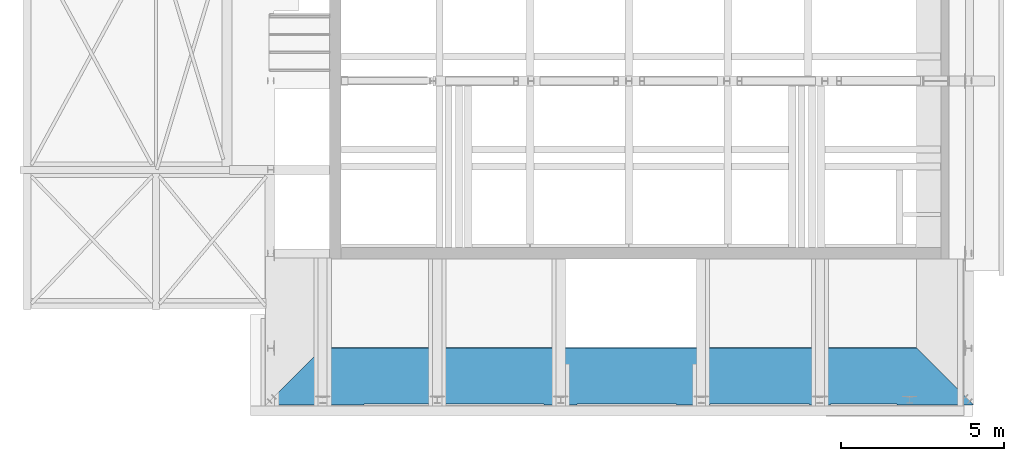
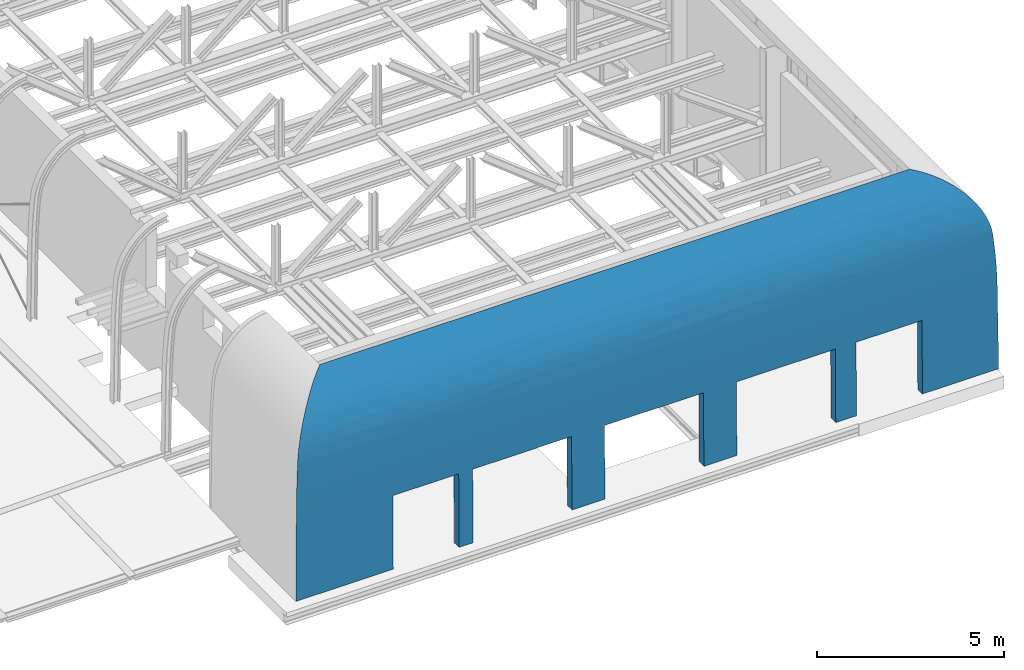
# One storey, part 27 of 29: 1 beam.
"""IFC2X3 building model written with IfcOpenShell, lengths in millimetres."""

import ifcopenshell
import ifcopenshell.guid

model = None  # the IFC model being written
_history = None  # IfcOwnerHistory: only IFC2X3 demands one
_inside = {}  # id of a spatial element -> (the spatial element, [elements in it])
_under = {}  # id of a project, library or spatial element -> (it, [spatial elements below it])
_declared = {}  # id of a project -> (the project, [libraries it declares])
_typed = {}  # id of a type object -> (the type object, [elements of that type])
_made_of = {}  # id of a material, layer set ... -> (it, [elements and type objects made of it])


def new_model(schema):
    """Start an empty IFC model of exactly this schema.

    Asked for "IFC4X3", IfcOpenShell would pick the latest addendum, in which some entities
    have other attributes; the version numbers below select the first issue.
    IFC2X3 requires an IfcOwnerHistory on every rooted entity: one is made here for all.
    """
    global model, _history
    if schema == "IFC4X3":
        model = ifcopenshell.file(schema_version=(4, 3, 0, 0))
    else:
        model = ifcopenshell.file(schema=schema)
    _inside.clear()
    _under.clear()
    _declared.clear()
    _typed.clear()
    _made_of.clear()
    _history = None
    if model.schema == "IFC2X3":
        org = make("IfcOrganization", Name="unknown")
        user = make(
            "IfcPersonAndOrganization",
            ThePerson=make("IfcPerson", FamilyName="unknown"),
            TheOrganization=org,
        )
        app = make(
            "IfcApplication",
            ApplicationDeveloper=org,
            Version="unknown",
            ApplicationFullName="unknown",
            ApplicationIdentifier="unknown",
        )
        _history = make(
            "IfcOwnerHistory",
            OwningUser=user,
            OwningApplication=app,
            ChangeAction="ADDED",
            CreationDate=0,
        )
    return model


def make(cls, **values):
    """One entity of the class cls with the attributes given. An attribute that is None is left unset."""
    return model.create_entity(
        cls, **{name: value for name, value in values.items() if value is not None}
    )


def entity(cls, *values):
    """Any entity or typed value of the class cls, its attributes in the order of the schema. None: left unset."""
    e = model.create_entity(cls)
    for i, value in enumerate(values):
        if value is not None:
            e[i] = value
    return e


def rooted(cls, **values):
    """An entity with a GlobalId (a new one), such as an element, a storey or a relation."""
    return make(cls, GlobalId=ifcopenshell.guid.new(), OwnerHistory=_history, **values)


def si_unit(unit_type, name, prefix=None):
    """IfcSIUnit, for example si_unit("LENGTHUNIT", "METRE", prefix="MILLI")."""
    return make("IfcSIUnit", UnitType=unit_type, Prefix=prefix, Name=name)


def converted_unit(unit_type, name, factor, base, dimensions=None, offset=None):
    """IfcConversionBasedUnit, such as the inch: factor (a typed value) times the base unit."""
    return make(
        "IfcConversionBasedUnit"
        if offset is None
        else "IfcConversionBasedUnitWithOffset",
        ConversionOffset=offset,
        Dimensions=None
        if dimensions is None
        else entity("IfcDimensionalExponents", *dimensions),
        UnitType=unit_type,
        Name=name,
        ConversionFactor=make(
            "IfcMeasureWithUnit", ValueComponent=factor, UnitComponent=base
        ),
    )


def derived_unit(unit_type, elements):
    """IfcDerivedUnit: a product of units, each with its exponent."""
    return make(
        "IfcDerivedUnit",
        Elements=[
            make("IfcDerivedUnitElement", Unit=unit, Exponent=power)
            for unit, power in elements
        ],
        UnitType=unit_type,
    )


def assignment(units):
    """IfcUnitAssignment: the units of a project."""
    return None if units is None else make("IfcUnitAssignment", Units=units)


def point(xyz):
    """IfcCartesianPoint."""
    return None if xyz is None else make("IfcCartesianPoint", Coordinates=xyz)


def direction(xyz):
    """IfcDirection."""
    return None if xyz is None else make("IfcDirection", DirectionRatios=xyz)


def frame(location, z_axis=None, x_axis=None):
    """IfcAxis2Placement3D, a coordinate frame: its origin and axes. An axis left out is left unset."""
    return make(
        "IfcAxis2Placement3D",
        Location=point(location),
        Axis=direction(z_axis),
        RefDirection=direction(x_axis),
    )


def origin():
    """The frame at (0, 0, 0) with its axes left unset."""
    return frame((0.0, 0.0, 0.0))


def place(relative_to, where):
    """IfcLocalPlacement: puts the frame where relative to a parent placement (None: the world)."""
    return make(
        "IfcLocalPlacement", PlacementRelTo=relative_to, RelativePlacement=where
    )


def context(
    kind, dimensions, precision=None, world=None, true_north=None, identifier=None
):
    """IfcGeometricRepresentationContext, for example the 3D "Model" context."""
    return make(
        "IfcGeometricRepresentationContext",
        ContextIdentifier=identifier,
        ContextType=kind,
        CoordinateSpaceDimension=dimensions,
        Precision=precision,
        WorldCoordinateSystem=world,
        TrueNorth=true_north,
    )


def subcontext(parent, identifier, kind, view, scale=None):
    """IfcGeometricRepresentationSubContext, for example "Body" below "Model"."""
    return make(
        "IfcGeometricRepresentationSubContext",
        ContextIdentifier=identifier,
        ContextType=kind,
        ParentContext=parent,
        TargetScale=scale,
        TargetView=view,
    )


def project(units=None, contexts=None):
    """IfcProject with its units and contexts."""
    return rooted(
        "IfcProject",
        Name="project",
        RepresentationContexts=contexts,
        UnitsInContext=assignment(units),
    )


def spatial(cls, under=None, at=None, **own):
    """A site, building, storey or space (cls), placed at a placement, below another one or the project."""
    s = rooted(cls, ObjectPlacement=at, **own)
    if under is not None:
        _under.setdefault(under.id(), (under, []))[1].append(s)
    return s


def faces_of(points, faces, orient=None, outer=None):
    """IfcFace entities. A face is a list of loops; a loop is a list of indices into points, from 0.

    orient and outer hold one flag for each loop. By default every Orientation is true, the
    first loop of a face is its IfcFaceOuterBound and the others are IfcFaceBound.
    """
    made = []
    for i, loops in enumerate(faces):
        bounds = []
        for j, loop in enumerate(loops):
            is_outer = j == 0 if outer is None else outer[i][j]
            bounds.append(
                make(
                    "IfcFaceOuterBound" if is_outer else "IfcFaceBound",
                    Bound=make("IfcPolyLoop", Polygon=[points[k] for k in loop]),
                    Orientation=True if orient is None else orient[i][j],
                )
            )
        made.append(make("IfcFace", Bounds=bounds))
    return made


def faceted_brep(points, faces, orient=None, outer=None, voids=None):
    """IfcFacetedBrep: a solid bounded by flat faces; with voids (closed shells), ...WithVoids."""
    shared = [point(p) for p in points]
    hull = make("IfcClosedShell", CfsFaces=faces_of(shared, faces, orient, outer))
    if voids is None:
        return make("IfcFacetedBrep", Outer=hull)
    return make(
        "IfcFacetedBrepWithVoids",
        Outer=hull,
        Voids=[
            make(cls, CfsFaces=faces_of(shared, fs, o, b)) for cls, fs, o, b in voids
        ],
    )


def shape(context_of_items, identifier, shape_type, items):
    """IfcShapeRepresentation: the items that make up one representation, for example the "Body"."""
    return make(
        "IfcShapeRepresentation",
        ContextOfItems=context_of_items,
        RepresentationIdentifier=identifier,
        RepresentationType=shape_type,
        Items=items,
    )


def material(Name=None, Category=None):
    """IfcMaterial."""
    return make("IfcMaterial", Name=Name, Category=Category)


def made_of(thing, what):
    """Note that an element or type object is made of a material, layer set ...; save() writes the relation."""
    if what is not None:
        _made_of.setdefault(what.id(), (what, []))[1].append(thing)
    return thing


def type_object(cls, material=None, **own):
    """A type object (cls), such as IfcWallType, which elements share."""
    return made_of(rooted(cls, **own), material)


def element(
    cls,
    number,
    at=None,
    inside=None,
    cuts=None,
    type_object=None,
    material=None,
    context=None,
    identifier="Body",
    shape_type=None,
    held_by="IfcProductDefinitionShape",
    body=None,
    shapes=None,
    **own,
):
    """One element of the class cls, such as IfcWall. Its Tag is "e" and its number.

    at: its placement. inside: the storey or other place that contains it. cuts: it is an
    opening in that element (IfcRelVoidsElement). A single representation is given by context,
    identifier, shape_type and body (its items); several are given by shapes. held_by: the class
    of the entity that holds the representations. save() writes the other relations.
    """
    e = rooted(cls, Tag="e%d" % number, ObjectPlacement=at, **own)
    if body is not None:
        shapes = [shape(context, identifier, shape_type, body)]
    if shapes is not None:
        e.Representation = make(held_by, Representations=shapes)
    if inside is not None:
        _inside.setdefault(inside.id(), (inside, []))[1].append(e)
    if cuts is not None:
        rooted(
            "IfcRelVoidsElement", RelatingBuildingElement=cuts, RelatedOpeningElement=e
        )
    if type_object is not None:
        _typed.setdefault(type_object.id(), (type_object, []))[1].append(e)
    return made_of(e, material)


def aggregate(whole, parts):
    """IfcRelAggregates: a whole, such as a stair, and the parts it consists of."""
    return rooted("IfcRelAggregates", RelatingObject=whole, RelatedObjects=parts)


def save(model, path):
    """Write the relations noted so far, then the file.

    IfcRelAggregates (storeys below a building ...), IfcRelContainedInSpatialStructure (elements
    in a storey), IfcRelDefinesByType, IfcRelAssociatesMaterial and IfcRelDeclares: one each for
    every whole, place, type object, material and project.
    """
    for whole, parts in _under.values():
        aggregate(whole, parts)
    for where, things in _inside.values():
        rooted(
            "IfcRelContainedInSpatialStructure",
            RelatedElements=things,
            RelatingStructure=where,
        )
    for kind, things in _typed.values():
        rooted("IfcRelDefinesByType", RelatedObjects=things, RelatingType=kind)
    for what, things in _made_of.values():
        rooted("IfcRelAssociatesMaterial", RelatedObjects=things, RelatingMaterial=what)
    for by, libraries in _declared.values():
        rooted("IfcRelDeclares", RelatingContext=by, RelatedDefinitions=libraries)
    model.write(path)


model = new_model("IFC2X3")

# Units and contexts
model_context = context("Model", 3, precision=0.01, world=origin(), true_north=direction((6.12303176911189e-17, 1.0)))
body_context = subcontext(model_context, "Body", "Model", "MODEL_VIEW")
ifc_project = project(units=[si_unit("LENGTHUNIT", "METRE", prefix="MILLI"), si_unit("AREAUNIT", "SQUARE_METRE", prefix="MILLI"), si_unit("VOLUMEUNIT", "CUBIC_METRE"), converted_unit("PLANEANGLEUNIT", "DEGREE", entity("IfcRatioMeasure", 0.0174532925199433), si_unit("PLANEANGLEUNIT", "RADIAN"), dimensions=[0, 0, 0, 0, 0, 0, 0]), si_unit("MASSUNIT", "GRAM", prefix="KILO"), derived_unit("MASSDENSITYUNIT", [(si_unit("MASSUNIT", "GRAM", prefix="KILO"), 1), (si_unit("LENGTHUNIT", "METRE"), -3)]), derived_unit("MOMENTOFINERTIAUNIT", [(si_unit("LENGTHUNIT", "METRE"), 4)]), si_unit("TIMEUNIT", "SECOND"), si_unit("FREQUENCYUNIT", "HERTZ"), si_unit("THERMODYNAMICTEMPERATUREUNIT", "DEGREE_CELSIUS"), derived_unit("THERMALTRANSMITTANCEUNIT", [(si_unit("MASSUNIT", "GRAM", prefix="KILO"), 1), (si_unit("THERMODYNAMICTEMPERATUREUNIT", "KELVIN"), -1), (si_unit("TIMEUNIT", "SECOND"), -3)]), derived_unit("VOLUMETRICFLOWRATEUNIT", [(si_unit("LENGTHUNIT", "METRE"), 3), (si_unit("TIMEUNIT", "SECOND"), -1)]), si_unit("ELECTRICCURRENTUNIT", "AMPERE"), si_unit("ELECTRICVOLTAGEUNIT", "VOLT"), si_unit("POWERUNIT", "WATT"), si_unit("FORCEUNIT", "NEWTON", prefix="KILO"), si_unit("ILLUMINANCEUNIT", "LUX"), si_unit("LUMINOUSFLUXUNIT", "LUMEN"), si_unit("LUMINOUSINTENSITYUNIT", "CANDELA"), derived_unit("USERDEFINED", [(si_unit("MASSUNIT", "GRAM", prefix="KILO"), -1), (si_unit("LENGTHUNIT", "METRE"), -2), (si_unit("TIMEUNIT", "SECOND"), 3), (si_unit("LUMINOUSFLUXUNIT", "LUMEN"), 1)]), derived_unit("LINEARVELOCITYUNIT", [(si_unit("LENGTHUNIT", "METRE"), 1), (si_unit("TIMEUNIT", "SECOND"), -1)]), si_unit("PRESSUREUNIT", "PASCAL"), derived_unit("USERDEFINED", [(si_unit("LENGTHUNIT", "METRE"), -2), (si_unit("MASSUNIT", "GRAM", prefix="KILO"), 1), (si_unit("TIMEUNIT", "SECOND"), -2)]), derived_unit("LINEARFORCEUNIT", [(si_unit("MASSUNIT", "GRAM", prefix="KILO"), 1), (si_unit("LENGTHUNIT", "METRE"), 1), (si_unit("TIMEUNIT", "SECOND"), -2), (si_unit("LENGTHUNIT", "METRE"), -1)]), derived_unit("PLANARFORCEUNIT", [(si_unit("MASSUNIT", "GRAM", prefix="KILO"), 1), (si_unit("LENGTHUNIT", "METRE"), 1), (si_unit("TIMEUNIT", "SECOND"), -2), (si_unit("LENGTHUNIT", "METRE"), -2)])], contexts=[model_context])

# Site, building, storey
site_placement = place(None, origin())
site = spatial("IfcSite", under=ifc_project, at=site_placement, Name="Theater aan de Parade", CompositionType="ELEMENT")
building_placement = place(site_placement, origin())
building = spatial("IfcBuilding", under=site, at=building_placement, Name="Theater aan de Parade", CompositionType="ELEMENT")
storey_placement = place(building_placement, frame((0.0, 0.0, 20300.0)))
storey = spatial("IfcBuildingStorey", under=building, at=storey_placement, Name="05 vijfde verdieping", CompositionType="ELEMENT", Elevation=20300.0)

# Beam
ifc_material = material(Name="00_PBT_MAT_beton prefab")
beam_type = type_object("IfcBeamType", Name="28_PBT_SF_toneeltoren_dakboog:28_PBT_SF_toneeltoren_dakboog as 1", PredefinedType="NOTDEFINED")
beam_placement = place(storey_placement, frame((65404.1057620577, 14998.7283771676, 20.0), z_axis=(0.0, 0.0, 1.0), x_axis=(-1.0, 0.0, 0.0)))
element("IfcBeam", 1, at=beam_placement, inside=storey, type_object=beam_type, material=ifc_material, Name="28_PBT_SF_toneeltoren_dakboog:28_PBT_SF_toneeltoren_dakboog as 1", ObjectType="28_PBT_SF_toneeltoren_dakboog:28_PBT_SF_toneeltoren_dakboog as 1", context=body_context, shape_type="Brep", body=[
    faceted_brep([(-16631.3274071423, 0.0, 0.0), (-16631.3274071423, -250.013567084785, 0.0), (-17270.9456363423, -250.013567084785, 0.0), (-17270.9456363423, 0.0, 0.0), (-12569.3274071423, -250.013567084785, 0.0), (-13584.7537613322, -250.013567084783, 0.0), (-13584.7537613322, 0.0, 0.0), (-12569.3274071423, 0.0, 0.0), (-8507.3274086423, -250.013567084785, 0.0), (-9522.75355558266, -250.013567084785, 0.0), (-9522.75355558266, 0.0, 0.0), (-8507.3274086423, 0.0, 0.0), (-5030.75320724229, -250.013567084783, 0.0), (-5460.75376140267, -250.013567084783, 0.0), (-5460.75376140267, 0.0, 0.0), (-5030.75320724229, 0.0, 0.0), (-250.01356708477, -250.013567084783, 0.0), (-2999.8267076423, -250.013567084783, 0.0), (-2999.8267076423, 0.0, 0.0), (0.0, 0.0, 0.0), (-19301.9452730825, 0.0, 0.0), (-19301.9452730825, -250.013567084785, 0.0), (-21401.1762269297, -250.013567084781, 0.0), (-21651.1897940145, 0.0, 0.0), (-21621.8204006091, -29.3693934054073, 2739.03729858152), (-16674.642446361, -29.3693934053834, 2739.03729858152), (-10825.5948970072, -29.3693934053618, 2739.03729858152), (-4976.54734765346, -29.3693934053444, 2739.03729858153), (-29.3693934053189, -29.3693934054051, 2739.03729858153), (-2999.8267076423, -25.5196073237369, 2380.0), (-5030.75320724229, -25.5196073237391, 2380.0), (-5460.75376140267, -25.5196073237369, 2380.0), (-8507.3274086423, -25.5196073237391, 2380.0), (-9522.75355558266, -25.5196073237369, 2380.0), (-12569.3274071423, -25.5196073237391, 2380.0), (-13584.7537613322, -25.5196073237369, 2380.0), (-16631.3274071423, -25.5196073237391, 2380.0), (-17270.9456363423, -25.5196073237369, 2380.0), (-19301.9452730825, -25.5196073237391, 2380.0), (-741.925899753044, -741.925899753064, 5619.2056823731), (-912.009392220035, -912.009392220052, 5762.35405109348), (-1100.83249981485, -1100.83249981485, 5879.68130246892), (-1304.50602294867, -1304.50602294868, 5968.77084086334), (-1518.83488723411, -1518.83488723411, 6027.78768431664), (-1739.40454965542, -1739.40454965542, 6055.51625976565), (-1752.70759417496, -1752.70759417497, 5805.87045265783), (-1649.18223027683, -1649.18223027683, 5796.18649980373), (-1546.76304821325, -1546.76304821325, 5778.25353968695), (-1446.10626557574, -1446.10626557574, 5752.18647191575), (-1347.85680795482, -1347.85680795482, 5718.15231274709), (-1252.64417678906, -1252.64417678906, 5676.36912498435), (-1161.07841603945, -1161.07841603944, 5627.10462081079), (-1073.74620353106, -1073.74620353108, 5570.67444651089), (-991.207092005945, -991.207092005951, 5507.44016006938), (-913.989923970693, -913.989923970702, 5437.80691460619), (-828.05717003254, -828.057170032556, 5352.89294778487), (-748.270105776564, -748.270105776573, 5262.17997000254), (-675.019050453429, -675.019050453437, 5166.11175020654), (-608.662349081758, -608.662349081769, 5065.15825525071), (-549.524619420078, -549.524619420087, 4959.81335081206), (-497.895163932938, -497.895163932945, 4850.59238539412), (-454.026554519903, -454.026554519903, 4738.02966923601), (-418.133396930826, -418.133396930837, 4622.67586046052), (-390.391280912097, -390.391280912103, 4505.09527124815), (-370.935921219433, -370.935921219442, 4385.8631072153), (-359.862493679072, -359.862493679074, 4265.56265350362), (-328.655331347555, -328.655331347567, 3883.82504014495), (-304.828933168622, -304.828933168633, 3501.55576962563), (-288.392192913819, -288.392192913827, 3118.89753307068), (-279.351246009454, -279.351246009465, 2735.99316679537), (-38.4848472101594, -38.4848472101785, 3125.83903701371), (-55.0534271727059, -55.0534271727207, 3512.39324861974), (-79.0689783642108, -79.0689783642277, 3898.55633547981), (-110.522579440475, -110.522579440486, 4284.18484497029), (-121.975431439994, -121.975431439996, 4409.76589754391), (-141.410039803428, -141.410039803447, 4534.36150172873), (-168.747355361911, -168.747355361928, 4657.46487196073), (-203.876185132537, -203.876185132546, 4778.57529225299), (-246.653644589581, -246.6536445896, 4897.2001528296), (-296.905738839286, -296.905738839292, 5012.85695378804), (-354.428070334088, -354.428070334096, 5125.07526764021), (-418.986670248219, -418.986670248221, 5233.39865274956), (-490.318950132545, -490.318950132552, 5337.38650988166), (-568.134769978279, -568.134769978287, 5436.61587431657), (-652.117618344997, -652.117618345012, 5530.68313623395), (-19301.9452730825, -275.533980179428, 2380.0), (-17270.9456363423, -275.533980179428, 2380.0), (-16631.3274071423, -275.533980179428, 2380.0), (-13584.7537613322, -275.533980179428, 2380.0), (-12569.3274071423, -275.533980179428, 2380.0), (-9522.75355558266, -275.533980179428, 2380.0), (-8507.3274086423, -275.533980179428, 2380.0), (-5460.75376140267, -275.533980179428, 2380.0), (-5030.75320724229, -275.533980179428, 2380.0), (-2999.8267076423, -275.533980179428, 2380.0), (-5195.62724627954, -279.351245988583, 2735.99316679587), (-11539.2865474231, -279.351245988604, 2735.99316679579), (-21371.838548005, -279.351246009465, 2735.99316679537), (-14014.0215589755, -304.642942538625, 3498.01625284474), (-21322.5344626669, -328.655331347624, 3883.82504014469), (-21346.3608608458, -304.828933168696, 3501.55576962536), (-21362.7976011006, -288.392192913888, 3118.8975330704), (-8050.8666944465, -304.675564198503, 3498.63793749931), (-16375.0512999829, -359.862493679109, 4265.5626535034), (-18389.0038792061, -359.862493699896, 4265.56265350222), (-21291.3273003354, -359.86249367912, 4265.56265350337), (-3262.17763208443, -359.862493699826, 4265.56265350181), (-5276.13849403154, -359.862493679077, 4265.56265350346), (-10825.5948970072, -359.862493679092, 4265.56265350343), (-13156.148030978, -359.862493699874, 4265.56265350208), (-15486.6887408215, -359.862493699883, 4265.56265350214), (-6164.5010532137, -359.862493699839, 4265.56265350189), (-8495.05004580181, -359.86249369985, 4265.56265350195), (-21153.2946300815, -497.895163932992, 4850.59238539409), (-18634.68018267, -512.821238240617, 4884.26361655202), (-21101.6651745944, -549.524619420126, 4959.81335081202), (-4421.85470238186, -748.378973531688, 5262.31282832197), (-2618.42563803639, -771.729585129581, 5290.20195894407), (-3816.31278298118, -913.989923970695, 5437.80691460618), (-2502.59025180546, -431.509517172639, 4669.07704488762), (-7746.39008141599, -432.453062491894, 4672.17572737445), (-6318.72028833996, -494.513123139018, 4842.68381755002), (-8157.69539474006, -529.219565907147, 4919.17848672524), (-17669.7424488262, -398.154385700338, 4541.94610577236), (-15920.175155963, -399.149418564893, 4546.39892031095), (-17170.4953896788, -464.771391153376, 4767.85208067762), (-21260.7985131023, -390.391280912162, 4505.09527124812), (-19148.5995492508, -431.509516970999, 4669.077044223), (-21233.0563970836, -418.133396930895, 4622.67586046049), (-12078.2655734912, -442.201511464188, 4703.04485839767), (-10197.1615990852, -571.666312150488, 5001.30785200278), (-11950.257246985, -595.306528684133, 5042.82566811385), (-4063.59529489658, -391.747513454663, 4511.83024851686), (-4480.69441825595, -464.771391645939, 4767.85208200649), (-21042.5274449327, -608.662349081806, 5065.15825525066), (-18258.8117889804, -624.786727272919, 5091.14394381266), (-19032.7641535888, -771.729584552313, 5290.2019582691), (-20976.170743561, -675.019050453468, 5166.11175020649), (-21197.1632394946, -454.026554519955, 4738.02966923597), (-3392.37801242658, -624.786727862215, 5091.14394474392), (-14767.9486948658, -720.527033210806, 5227.41634430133), (-17229.3350775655, -748.378972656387, 5262.31282725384), (-16012.1033990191, -593.044443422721, 5038.96624112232), (-3016.50962268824, -512.821238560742, 4884.263617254), (-21280.253872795, -370.935921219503, 4385.86310721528), (-13727.9148459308, -583.351796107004, 5022.16418837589), (-6718.63015561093, -913.9899239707, 5437.80691460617), (-7206.49179236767, -753.194388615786, 5268.16257509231), (-12736.1112070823, -721.848752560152, 5229.114805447), (-14932.5596384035, -913.989923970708, 5437.80691460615), (-17834.8824974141, -913.98992397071, 5437.80691460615), (-5904.9356792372, -410.185668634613, 4592.51488864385), (-20737.1998700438, -913.989923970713, 5437.80691460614), (-20823.1326239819, -828.057170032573, 5352.89294778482), (-20902.9196882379, -748.270105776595, 5262.17997000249), (-3430.91281244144, -913.9899239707, 5437.80691460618), (-18220.276981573, -913.989923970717, 5437.80691460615), (-6719.82211082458, -616.749775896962, 5078.32013123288), (-5033.96148213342, -571.992079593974, 5001.89856562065), (-14983.0764741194, -474.579393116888, 4793.67494874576), (-10636.6402126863, -734.412849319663, 5245.04555082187), (-10168.932310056, -401.466683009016, 4556.5614365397), (-9618.05660993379, -471.401795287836, 4785.44408230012), (-8642.99131345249, -670.396143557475, 5159.55544137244), (-9620.94752824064, -913.989923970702, 5437.80691460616), (-5947.84020993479, -913.989923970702, 5437.80691460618), (-15703.3540931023, -913.989923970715, 5437.80691460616), (-13858.1952716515, -402.59627395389, 4561.41535333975), (-12273.4514179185, -383.923179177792, 4470.84204013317), (-10669.5038071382, -913.989923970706, 5437.80691460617), (-12523.2703872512, -913.989923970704, 5437.80691460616), (-13186.4266956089, -913.98992397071, 5437.80691460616), (-8308.67426304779, -913.989923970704, 5437.80691460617), (-12845.1138875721, -1752.70759417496, 5805.87045265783), (-13854.8743044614, -1521.88798366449, 5772.60765953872), (-11761.5713695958, -1515.76009252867, 5771.13769579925), (-17074.384283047, -1557.11346764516, 5780.45204573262), (-16724.7768790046, -1334.98707040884, 5713.02936780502), (-15652.0287889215, -1528.10661621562, 5774.06730606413), (-3011.16973768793, -1752.70759417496, 5805.87045265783), (-18640.0200563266, -1752.70759417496, 5805.87045265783), (-19898.4821998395, -1752.70759417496, 5805.87045265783), (-20002.0075637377, -1649.18223027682, 5796.18649980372), (-5056.00129175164, -1098.37436580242, 5587.60304298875), (-3254.37620402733, -1175.24840059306, 5635.3561788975), (-4926.41290905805, -1334.9870726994, 5713.029368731), (-16595.1885147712, -1098.37436468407, 5587.6030422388), (-20104.4267458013, -1546.76304821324, 5778.25353968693), (-20205.0835284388, -1446.10626557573, 5752.18647191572), (-18334.4007850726, -1462.60825339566, 5757.05366469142), (-20398.5456172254, -1252.64417678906, 5676.36912498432), (-20490.1113779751, -1161.07841603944, 5627.10462081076), (-18396.8135894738, -1175.24839954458, 5635.35617829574), (-14792.2333598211, -1320.22075891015, 5706.95421885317), (-17381.5579128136, -1752.70759417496, 5805.87045265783), (-3316.78900726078, -1462.60825463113, 5757.05366504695), (-6773.17361885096, -1048.9453534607, 5552.76304002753), (-6804.9848601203, -1228.78299711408, 5664.43285112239), (-20577.4435904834, -1073.74620353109, 5570.67444651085), (-20659.9827020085, -991.207092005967, 5507.44016006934), (-8129.34635706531, -1125.403157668, 5605.24468827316), (-20303.3329860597, -1347.85680795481, 5718.15231274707), (-4269.63038589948, -1752.70759417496, 5805.87045265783), (-7296.59393809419, -1483.59879378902, 5762.90374417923), (-8773.76779562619, -1303.26608203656, 5699.71475884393), (-14444.8897604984, -1104.41131869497, 5591.62679443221), (-5572.93310804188, -1563.70349393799, 5781.80599346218), (-6786.55467292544, -1752.70759417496, 5805.87045265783), (-9815.83509854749, -1521.85935475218, 5772.60086506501), (-10808.8121940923, -1285.26669226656, 5691.71486270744), (-8806.07441114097, -1752.70759417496, 5805.87045265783), (-11928.7219957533, -1082.65808000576, 5576.89672163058), (-12845.1144983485, -1300.73551669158, 5698.60973807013), (-9678.86027276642, -1093.89079505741, 5584.58299220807), (-10825.5941493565, -1752.70759417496, 5805.87045265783), (-14864.6336257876, -1752.70759417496, 5805.87045265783), (-19911.7852443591, -1739.40454965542, 6055.51625976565), (-4487.86805156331, -1739.4045496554, 6055.51625976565), (-7236.35939729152, -1739.4045496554, 6055.51625976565), (-9030.97714714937, -1739.40454965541, 6055.51625976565), (-10825.5948970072, -1739.40454965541, 6055.51625976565), (-12620.2126468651, -1739.4045496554, 6055.51625976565), (-14414.830396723, -1739.40454965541, 6055.51625976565), (-17163.3217424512, -1739.40454965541, 6055.51625976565), (-18537.5534934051, -1739.40454965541, 6055.51625976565), (-3490.39203647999, -741.92589975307, 5619.20568237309), (-4864.6361701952, -893.223243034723, 5748.50276783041), (-3025.41120346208, -975.765008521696, 5806.23534234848), (-3480.84706994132, -1372.79049338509, 5991.19635060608), (-18824.0562332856, -938.117535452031, 5780.8930311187), (-18160.7872617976, -741.925899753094, 5619.20568237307), (-19356.6334399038, -741.925899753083, 5619.20568237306), (-20909.2638942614, -741.925899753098, 5619.20568237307), (-7813.78744030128, -1407.34150975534, 6001.2252498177), (-5950.36425255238, -1439.16465639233, 6009.69963991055), (-6686.18800392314, -1216.3560895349, 5934.47376694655), (-14859.2427797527, -1388.82492287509, 5995.95879115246), (-16282.2795339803, -1554.94715794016, 6034.54640561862), (-17850.4301110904, -1519.97403201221, 6028.01445554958), (-20132.3549067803, -1518.83488723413, 6027.78768431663), (-18420.9208736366, -1167.65815265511, 5912.79677450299), (-20550.3572941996, -1100.83249981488, 5879.6813024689), (-20346.6837710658, -1304.5060229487, 5968.77084086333), (-20739.1804017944, -912.00939222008, 5762.35405109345), (-4844.53634956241, -1141.3193125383, 5900.22190771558), (-2680.40169406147, -1178.3526858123, 5917.73006239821), (-11072.6564459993, -1019.26173991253, 5833.58086765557), (-13574.0684104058, -941.880369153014, 5783.4986466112), (-13170.9097695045, -1281.40252953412, 5960.37790815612), (-6238.8686689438, -741.925899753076, 5619.20568237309), (-7220.2635132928, -998.577906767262, 5820.82825646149), (-16702.6472237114, -1346.13875822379, 5982.86057411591), (-14669.1380770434, -1156.0957462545, 5907.35157440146), (-16087.1326747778, -1022.15203944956, 5835.32743864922), (-9576.05268421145, -1495.94440157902, 6023.04203977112), (-11722.9057294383, -1480.24580805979, 6019.57833191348), (-2294.55635411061, -741.925899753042, 5619.20568237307), (-15412.3106293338, -741.92589975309, 5619.20568237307), (-15867.436373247, -741.925899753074, 5619.20568237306), (-17804.0029855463, -741.925899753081, 5619.20568237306), (-3847.18680846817, -741.925899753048, 5619.20568237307), (-13406.2610154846, -1507.94408169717, 6025.57473802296), (-9158.53926822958, -976.943011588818, 5807.0027169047), (-9030.97324008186, -1217.68660858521, 5935.03806567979), (-13574.0662816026, -741.925899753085, 5619.20568237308), (-11735.8219338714, -741.925899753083, 5619.20568237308), (-13346.5086575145, -741.925899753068, 5619.20568237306), (-6952.44771718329, -741.925899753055, 5619.20568237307), (-8889.01432948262, -741.925899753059, 5619.20568237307), (-8987.34530140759, -741.925899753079, 5619.20568237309), (-11389.8624679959, -1242.43287810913, 5945.26845605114), (-10825.5809417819, -741.925899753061, 5619.20568237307), (-2370.34082571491, -182.033982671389, 4706.75053438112), (-19407.0179957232, -515.62624410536, 5371.10845911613), (-17940.426720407, -433.524829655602, 5255.77848574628), (-19257.3195104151, -316.351610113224, 5052.80519798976), (-18165.0027800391, -217.022011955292, 4817.6380640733), (-17393.4967200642, -309.04875646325, 5038.06863722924), (-2297.15300452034, -515.233297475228, 5370.59615081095), (-3854.70556243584, -576.316053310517, 5446.3263204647), (-4937.47364962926, -318.985567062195, 5058.04577860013), (-3822.95538642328, -432.835333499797, 5254.73188246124), (-2437.93206678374, -316.173922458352, 5052.45026693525), (-3215.78226408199, -110.522579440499, 4284.1848449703), (-16835.7149216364, -572.958557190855, 5442.35657552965), (-6367.28654286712, -497.714221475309, 5347.39651445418), (-15330.1380242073, -110.522579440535, 4284.1848449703), (-13930.8583474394, -169.209995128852, 4659.27003617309), (-12531.5711390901, -110.522579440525, 4284.1848449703), (-4006.72921998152, -143.225226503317, 4543.84740634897), (-19426.3661849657, -152.195506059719, 4587.4766527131), (-18435.3977088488, -110.522579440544, 4284.1848449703), (-21529.2143625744, -121.975431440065, 4409.76589754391), (-4460.54193864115, -214.885882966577, 4811.47008181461), (-21482.4424386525, -168.747355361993, 4657.46487196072), (-21509.779754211, -141.410039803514, 4534.36150172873), (-13641.7581102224, -299.113903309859, 5017.51014229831), (-12022.9176206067, -293.471656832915, 5005.55754180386), (-19826.335293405, -220.711155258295, 4828.13845875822), (-6713.31134021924, -357.557860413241, 5130.70761845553), (-21296.7617236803, -354.428070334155, 5125.07526764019), (-21232.2031237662, -418.986670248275, 5233.39865274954), (-21540.667214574, -110.522579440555, 4284.1848449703), (-21083.0550240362, -568.134769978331, 5436.61587431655), (-21160.8708438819, -490.318950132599, 5337.38650988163), (-12086.0535248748, -500.095432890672, 5350.5917829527), (-21447.3136088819, -203.876185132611, 4778.57529225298), (-21404.5361494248, -246.653644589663, 4897.20015282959), (-21354.2840551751, -296.905738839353, 5012.85695378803), (-20999.0721756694, -652.117618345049, 5530.68313623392), (-17222.9469654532, -143.302724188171, 4544.24688743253), (-16141.5572868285, -204.323219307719, 4779.94920955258), (-15263.1581879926, -300.534781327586, 5020.48786522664), (-7873.6812075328, -178.694688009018, 4694.82875623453), (-6441.08222827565, -246.175244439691, 4895.99421699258), (-5927.36931886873, -160.934207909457, 4625.83592178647), (-9857.30937596, -543.600686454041, 5406.71630376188), (-14606.9707735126, -563.999679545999, 5431.65937504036), (-13981.2916470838, -406.038551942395, 5212.89307467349), (-15985.6071621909, -425.438115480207, 5243.41161541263), (-10978.9446597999, -162.813435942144, 4633.6513704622), (-9426.3114544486, -110.522579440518, 4284.1848449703), (-11646.3113061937, -110.522579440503, 4284.18484497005), (-6321.0517698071, -110.522579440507, 4284.1848449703), (-10147.0151084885, -251.446419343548, 4909.15638218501), (-8128.38765248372, -254.882835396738, 4917.59284488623), (-8889.02385423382, -346.112916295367, 5109.89738390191), (-15503.4660657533, -146.906108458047, 4562.35863808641), (-10632.1975067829, -401.755428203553, 5205.98536377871), (-8010.68533139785, -579.242232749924, 5449.76890435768), (-5057.70053363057, -110.522579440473, 4284.18484496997), (-21572.1208156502, -79.0689783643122, 3898.55633547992), (-13957.6908820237, -54.3750986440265, 3499.39752763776), (-21596.1363668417, -55.053427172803, 3512.39324861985), (-21612.7049468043, -38.4848472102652, 3125.83903701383), (-7901.07112133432, -54.8969885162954, 3509.41043738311)], [[[0, 1, 2, 3]], [[4, 5, 6, 7]], [[8, 9, 10, 11]], [[12, 13, 14, 15]], [[16, 17, 18, 19]], [[20, 21, 22, 23]], [[23, 24, 25, 26, 27, 28, 19, 18, 29, 30, 15, 14, 31, 32, 11, 10, 33, 34, 7, 6, 35, 36, 0, 3, 37, 38, 20]], [[39, 40, 41, 42, 43, 44, 45, 46, 47, 48, 49, 50, 51, 52, 53, 54, 55, 56, 57, 58, 59, 60, 61, 62, 63, 64, 65, 66, 67, 68, 69, 16, 19, 28, 70, 71, 72, 73, 74, 75, 76, 77, 78, 79, 80, 81, 82, 83, 84]], [[85, 86, 2, 1, 87, 88, 5, 4, 89, 90, 9, 8, 91, 92, 13, 12, 93, 94, 17, 16, 69, 95, 96, 97, 22, 21]], [[98, 99, 100]], [[101, 98, 100]], [[96, 102, 98]], [[97, 96, 98]], [[68, 95, 69]], [[99, 103, 104, 105]], [[66, 65, 106, 107]], [[95, 68, 102]], [[68, 67, 102]], [[98, 108, 109, 110, 103]], [[66, 107, 102]], [[101, 97, 98]], [[102, 67, 66]], [[102, 108, 98]], [[96, 95, 102]], [[99, 98, 103]], [[102, 107, 111, 112, 108]], [[113, 114, 115]], [[116, 117, 118]], [[119, 106, 64]], [[120, 121, 122]], [[123, 110, 124]], [[125, 123, 124]], [[126, 127, 128]], [[129, 130, 131]], [[132, 119, 133]], [[117, 57, 56]], [[134, 115, 114]], [[135, 136, 137]], [[113, 138, 127]], [[125, 114, 127]], [[119, 63, 62]], [[139, 117, 116]], [[140, 141, 142]], [[127, 138, 128]], [[54, 117, 55]], [[119, 62, 61]], [[119, 143, 133]], [[57, 117, 139]], [[144, 127, 126]], [[145, 140, 142]], [[146, 147, 116]], [[148, 149, 140]], [[64, 63, 119]], [[106, 65, 64]], [[144, 105, 104]], [[136, 141, 150]], [[121, 120, 151]], [[106, 119, 132]], [[113, 127, 114]], [[55, 117, 56]], [[152, 153, 136]], [[136, 153, 154]], [[143, 59, 58]], [[137, 134, 135]], [[117, 54, 155, 118]], [[136, 150, 156, 152]], [[157, 121, 158]], [[60, 119, 61]], [[143, 58, 139]], [[58, 57, 139]], [[104, 127, 144]], [[143, 60, 59]], [[137, 136, 154]], [[141, 136, 135]], [[145, 142, 159]], [[111, 132, 151]], [[160, 148, 131]], [[129, 161, 162]], [[130, 163, 160]], [[164, 163, 147]], [[161, 112, 120]], [[130, 122, 163]], [[145, 159, 129]], [[116, 118, 165, 146]], [[158, 116, 157]], [[141, 135, 142]], [[141, 149, 166, 150]], [[114, 142, 135]], [[159, 142, 125]], [[125, 124, 159]], [[159, 124, 167]], [[167, 110, 109]], [[129, 168, 161]], [[125, 127, 123]], [[167, 129, 159]], [[110, 167, 124]], [[129, 167, 168]], [[168, 167, 109]], [[151, 132, 133]], [[132, 111, 107, 106]], [[121, 151, 133]], [[129, 162, 130]], [[133, 143, 158]], [[122, 121, 157]], [[163, 122, 157]], [[162, 122, 130]], [[147, 163, 157]], [[160, 163, 164]], [[160, 164, 169, 170]], [[148, 170, 171, 149]], [[133, 158, 121]], [[116, 158, 139]], [[140, 145, 148]], [[141, 140, 149]], [[131, 148, 145]], [[160, 170, 148]], [[129, 131, 145]], [[160, 131, 130]], [[127, 104, 123]], [[123, 104, 103, 110]], [[116, 147, 157]], [[147, 146, 172, 164]], [[109, 108, 168]], [[161, 168, 108]], [[112, 111, 120]], [[120, 122, 162]], [[161, 108, 112]], [[111, 151, 120]], [[120, 162, 161]], [[142, 114, 125]], [[114, 135, 134]], [[143, 119, 60]], [[158, 143, 139]], [[173, 174, 175]], [[176, 177, 178]], [[46, 45, 179]], [[180, 181, 182]], [[183, 184, 185]], [[186, 156, 150, 166]], [[187, 188, 189]], [[52, 184, 155]], [[190, 191, 192]], [[193, 174, 178]], [[180, 176, 194]], [[49, 195, 184]], [[184, 195, 185]], [[195, 48, 47]], [[192, 186, 177]], [[196, 183, 197]], [[52, 155, 53]], [[195, 46, 179]], [[51, 50, 184]], [[189, 180, 182]], [[198, 199, 156]], [[192, 177, 189]], [[199, 152, 156]], [[155, 54, 53]], [[198, 156, 192]], [[184, 183, 155]], [[51, 184, 52]], [[200, 196, 197]], [[192, 201, 190]], [[198, 192, 191]], [[179, 202, 195]], [[203, 204, 197]], [[166, 205, 186]], [[184, 50, 49]], [[49, 48, 195]], [[188, 201, 189]], [[203, 206, 207]], [[189, 201, 192]], [[195, 47, 46]], [[206, 195, 202]], [[189, 182, 187]], [[180, 189, 176]], [[205, 193, 186]], [[208, 209, 204]], [[210, 208, 203]], [[203, 208, 204]], [[156, 186, 192]], [[205, 166, 149, 171]], [[211, 209, 212]], [[211, 205, 171]], [[212, 174, 193]], [[209, 213, 204]], [[183, 165, 118, 155]], [[197, 183, 185]], [[185, 206, 203]], [[204, 213, 200]], [[185, 203, 197]], [[214, 208, 210]], [[203, 207, 210]], [[214, 175, 208]], [[208, 175, 209]], [[212, 205, 211]], [[209, 211, 213]], [[174, 212, 175]], [[209, 175, 212]], [[175, 214, 173]], [[211, 171, 170, 169]], [[213, 211, 169]], [[215, 178, 174]], [[173, 215, 174]], [[213, 169, 164, 172]], [[204, 200, 197]], [[194, 178, 215]], [[177, 186, 193]], [[177, 193, 178]], [[212, 193, 205]], [[195, 206, 185]], [[202, 207, 206]], [[213, 172, 200]], [[196, 172, 146, 165]], [[172, 196, 200]], [[183, 196, 165]], [[177, 176, 189]], [[178, 194, 176]], [[216, 181, 180, 194, 215, 173, 214, 210, 207, 202, 179, 45, 44, 217, 218, 219, 220, 221, 222, 223, 224]], [[225, 226, 227]], [[228, 217, 44]], [[229, 230, 231, 232]], [[233, 234, 235]], [[222, 236, 237]], [[238, 239, 224]], [[240, 241, 242]], [[243, 229, 232]], [[227, 244, 245]], [[234, 228, 244]], [[43, 228, 44]], [[228, 43, 42]], [[246, 247, 248]], [[249, 250, 226]], [[238, 251, 240]], [[238, 223, 237]], [[224, 239, 216]], [[248, 252, 236]], [[42, 245, 228]], [[253, 240, 251]], [[254, 255, 220]], [[227, 41, 40]], [[40, 225, 227]], [[40, 39, 256, 225]], [[218, 217, 234]], [[243, 241, 229]], [[237, 251, 238]], [[253, 257, 258, 259, 230]], [[245, 42, 41]], [[226, 225, 260, 249]], [[255, 248, 261]], [[250, 262, 263]], [[229, 240, 253]], [[264, 257, 247, 265, 266]], [[257, 253, 247]], [[220, 255, 221]], [[228, 234, 217]], [[230, 229, 253]], [[238, 240, 242]], [[223, 238, 224]], [[242, 239, 238]], [[265, 247, 246]], [[248, 247, 252]], [[250, 249, 267, 268, 269]], [[248, 255, 270]], [[262, 269, 271, 265]], [[251, 237, 236]], [[237, 223, 222]], [[253, 251, 252]], [[261, 248, 236]], [[246, 248, 270]], [[222, 261, 236]], [[254, 270, 255]], [[263, 254, 233]], [[254, 219, 233]], [[236, 252, 251]], [[253, 252, 247]], [[226, 244, 227]], [[244, 235, 234]], [[226, 250, 244]], [[262, 246, 263]], [[261, 221, 255]], [[221, 261, 222]], [[270, 263, 246]], [[263, 270, 254]], [[250, 263, 235]], [[234, 233, 218]], [[233, 235, 263]], [[250, 235, 244]], [[218, 233, 219]], [[254, 220, 219]], [[240, 229, 241]], [[228, 245, 244]], [[227, 245, 41]], [[246, 262, 265]], [[262, 250, 269]], [[77, 272, 78]], [[273, 274, 275]], [[276, 275, 277]], [[277, 275, 274]], [[278, 279, 256]], [[280, 281, 282]], [[74, 283, 272]], [[284, 259, 258]], [[272, 282, 78]], [[279, 281, 285]], [[286, 287, 288]], [[289, 272, 283]], [[272, 75, 74]], [[77, 76, 272]], [[290, 291, 292]], [[282, 81, 80]], [[293, 272, 289]], [[294, 290, 295]], [[287, 296, 297]], [[290, 294, 298]], [[285, 280, 299]], [[275, 300, 301]], [[259, 284, 273]], [[79, 282, 80]], [[298, 276, 290]], [[74, 73, 283]], [[291, 302, 292]], [[76, 75, 272]], [[301, 273, 275]], [[82, 278, 83]], [[279, 278, 281]], [[303, 273, 304]], [[83, 278, 84]], [[293, 282, 272]], [[305, 266, 265, 271]], [[306, 307, 298]], [[308, 275, 298]], [[303, 309, 273]], [[310, 290, 276]], [[282, 281, 278]], [[82, 81, 278]], [[309, 232, 231]], [[256, 39, 84]], [[307, 308, 298]], [[311, 277, 312]], [[313, 314, 315]], [[275, 308, 300]], [[316, 305, 271]], [[81, 282, 278]], [[256, 84, 278]], [[282, 79, 78]], [[295, 290, 292]], [[291, 290, 310]], [[273, 301, 304]], [[273, 231, 230, 259]], [[279, 267, 249, 260, 225, 256]], [[284, 274, 273]], [[231, 273, 309]], [[294, 306, 298]], [[276, 298, 275]], [[317, 318, 319]], [[320, 321, 322, 288]], [[321, 313, 323]], [[310, 276, 311]], [[313, 324, 325]], [[315, 289, 323]], [[326, 325, 324]], [[320, 288, 287]], [[317, 258, 257, 264, 266]], [[310, 286, 291]], [[287, 327, 311]], [[277, 274, 319]], [[305, 297, 318]], [[305, 316, 328]], [[284, 258, 317]], [[326, 328, 316]], [[274, 284, 319]], [[317, 266, 305]], [[312, 319, 318]], [[319, 284, 317]], [[312, 318, 296]], [[318, 317, 305]], [[321, 320, 313]], [[320, 287, 297]], [[267, 279, 285]], [[329, 268, 267]], [[280, 314, 299]], [[316, 271, 269, 268]], [[329, 316, 268]], [[329, 299, 326]], [[310, 311, 327]], [[311, 312, 287]], [[293, 289, 315]], [[289, 283, 330, 323]], [[293, 315, 314]], [[313, 315, 323]], [[280, 293, 314]], [[314, 313, 325]], [[293, 280, 282]], [[281, 280, 285]], [[285, 299, 329]], [[326, 299, 325]], [[276, 277, 311]], [[312, 277, 319]], [[327, 286, 310]], [[327, 287, 286]], [[328, 297, 305]], [[297, 328, 324]], [[316, 329, 326]], [[285, 329, 267]], [[314, 325, 299]], [[326, 324, 328]], [[324, 320, 297]], [[320, 324, 313]], [[312, 296, 287]], [[296, 318, 297]], [[331, 332, 333]], [[334, 332, 25]], [[332, 322, 335]], [[71, 335, 72]], [[335, 27, 26]], [[25, 332, 26]], [[71, 70, 335]], [[331, 302, 332]], [[335, 322, 321, 323, 330]], [[334, 333, 332]], [[335, 26, 332]], [[330, 72, 335]], [[25, 24, 334]], [[27, 70, 28]], [[70, 27, 335]], [[332, 302, 291, 286, 288, 322]], [[72, 330, 283, 73]], [[182, 181, 216, 239, 242, 241, 243, 232, 309, 303, 304, 301, 300, 308, 307, 306, 294, 295, 292, 302, 331, 333, 334, 24, 23, 22, 97, 101, 100, 99, 105, 144, 126, 128, 138, 113, 115, 134, 137, 154, 153, 152, 199, 198, 191, 190, 201, 188, 187]], [[30, 93, 12, 15]], [[29, 18, 17, 94]], [[29, 94, 93, 30]], [[37, 86, 85, 38]], [[35, 88, 87, 36]], [[33, 90, 89, 34]], [[31, 92, 91, 32]], [[31, 14, 13, 92]], [[32, 91, 8, 11]], [[33, 10, 9, 90]], [[34, 89, 4, 7]], [[35, 6, 5, 88]], [[36, 87, 1, 0]], [[37, 3, 2, 86]], [[38, 85, 21, 20]]]),
])

save(model, "model.ifc")
